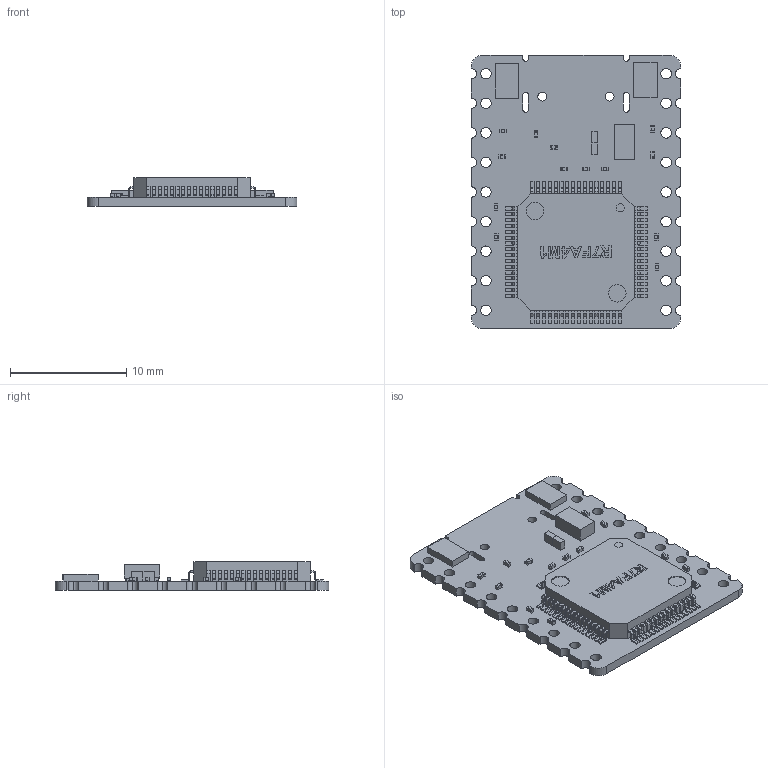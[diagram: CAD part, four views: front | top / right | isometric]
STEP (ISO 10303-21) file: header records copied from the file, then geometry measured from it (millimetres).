
FILE_DESCRIPTION(('Open CASCADE Model'),'2;1');
FILE_NAME('Open CASCADE Shape Model','2025-05-10T11:12:51',('Author'),( 'Open CASCADE'),'Open CASCADE STEP processor 6.8','Open CASCADE 6.8' ,'Unknown');
FILE_SCHEMA(('AUTOMOTIVE_DESIGN { 1 0 10303 214 1 1 1 1 }'));
Length unit declared in the file: millimetre
Products named in the file (38): PCB; Board; R13; 720329520; Extruded; R3; ME6217C33M5G; 911207152; C14; User_Library-Chip_Cap_MLCC_0201_(0603); C13; C12; C2; C11; C9; C8; C7; C6; C5; C3; C1; K1; 911220072; K2; U1; RA4M1_v4; Designator1; 6422462560; Body; Open_CASCADE_STEP_translator_6.8_23.1.1; Leader; 7219473552; 911220208; C10
Assembly tree (114 placements, depth 7):
  PCB
    Board
    R13
      720329520
        Extruded
    R3
      720329520
        Extruded
    ME6217C33M5G
      911207152
        Extruded
    C14
      User_Library-Chip_Cap_MLCC_0201_(0603)
    C13
      User_Library-Chip_Cap_MLCC_0201_(0603)
    C12
      User_Library-Chip_Cap_MLCC_0201_(0603)
    C2
      User_Library-Chip_Cap_MLCC_0201_(0603)
    C11
      User_Library-Chip_Cap_MLCC_0201_(0603)
    C9
      User_Library-Chip_Cap_MLCC_0201_(0603)
    C8
      User_Library-Chip_Cap_MLCC_0201_(0603)
    C7
      User_Library-Chip_Cap_MLCC_0201_(0603)
    C6
      User_Library-Chip_Cap_MLCC_0201_(0603)
    C5
      User_Library-Chip_Cap_MLCC_0201_(0603)
    C3
      User_Library-Chip_Cap_MLCC_0201_(0603)
    C1
      User_Library-Chip_Cap_MLCC_0201_(0603)
    K1
      911220072
        Extruded
    K2
      911220072
        Extruded
    U1
      RA4M1_v4
        Designator1
          6422462560
            Body
              Open_CASCADE_STEP_translator_6.8_23.1.1
            Leader  x64
          7219473552
            Extruded
      911220208
        Extruded
    C10
      User_Library-Chip_Cap_MLCC_0201_(0603)
Bounding box: 18 x 23.5 x 2.47 mm (x, y, z)
Volume: 500.6 mm3; surface area: 1358.2 mm2
Topology: 86 solids, 86 shells, 2265 faces, 4933 edges, 2774 vertices
Faces by surface type: plane 1562, cylinder 575, bspline 128
Full cylindrical faces by diameter (mm): 0.762 x2, 0.9 x18, 1.5 x2
Entity records: 27915 total; most frequent: CARTESIAN_POINT 8759, DIRECTION 3357, LINE 2063, VECTOR 2063, ORIENTED_EDGE 1762, PCURVE 1762, DEFINITIONAL_REPRESENTATION 1762, EDGE_CURVE 881
